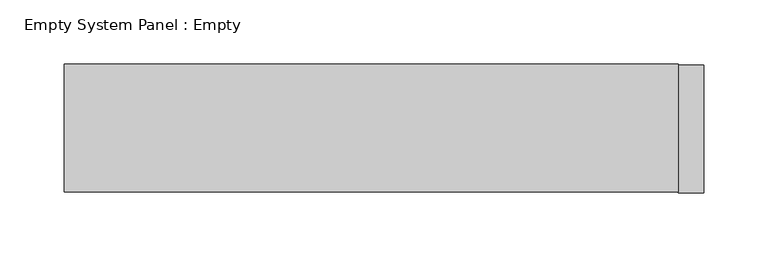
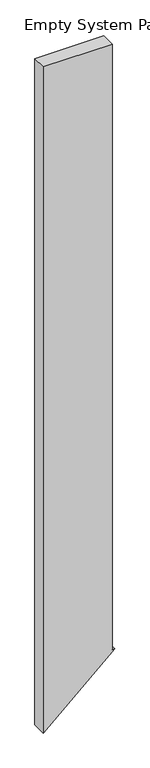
"""IFC4 building model written with IfcOpenShell, lengths in millimetres: plate geometry, Empty System Panel : Empty."""

from ifc_helpers import new_model, si_unit, frame, origin, place, context, project, spatial, polyline, outline, extrude, source, transform, mapped, element, save


def empty_system_panel_empty_3cf0b5c1(model_context):
    return source(origin(), model_context, "Body", "SweptSolid", [
        extrude(outline(polyline([(0.0, -249.7473037), (446.8059677, 249.7473037), (446.8059677, 229.7473037), (4906.1868058, 229.7473037), (4906.1868058, -249.7473037), (0.0, -249.7473037)])), frame((0.0, -50.0, 0.0), z_axis=(0.0, 1.0, 0.0), x_axis=(0.0, 0.0, 1.0)), (0.0, 0.0, 1.0), 100.0),
    ])


if __name__ == "__main__":
    model = new_model("IFC4")
    model_context = context("Model", 3, world=origin())
    ifc_project = project(units=[si_unit("LENGTHUNIT", "METRE", prefix="MILLI")], contexts=[model_context])
    site = spatial("IfcSite", under=ifc_project)
    building = spatial("IfcBuilding", under=site)
    placement = place(None, origin())
    empty_system_panel_empty_shape = empty_system_panel_empty_3cf0b5c1(model_context)
    element("IfcPlate", 1, ObjectType="Empty System Panel : Empty", at=placement, inside=building, context=model_context, shape_type="MappedRepresentation", body=[
        mapped(empty_system_panel_empty_shape, transform((0.0, 0.0, 0.0), x_axis=(1.0, 0.0, 0.0), y_axis=(0.0, 1.0, 0.0), z_axis=(0.0, 0.0, 1.0))),
    ])
    save(model, "model.ifc")
